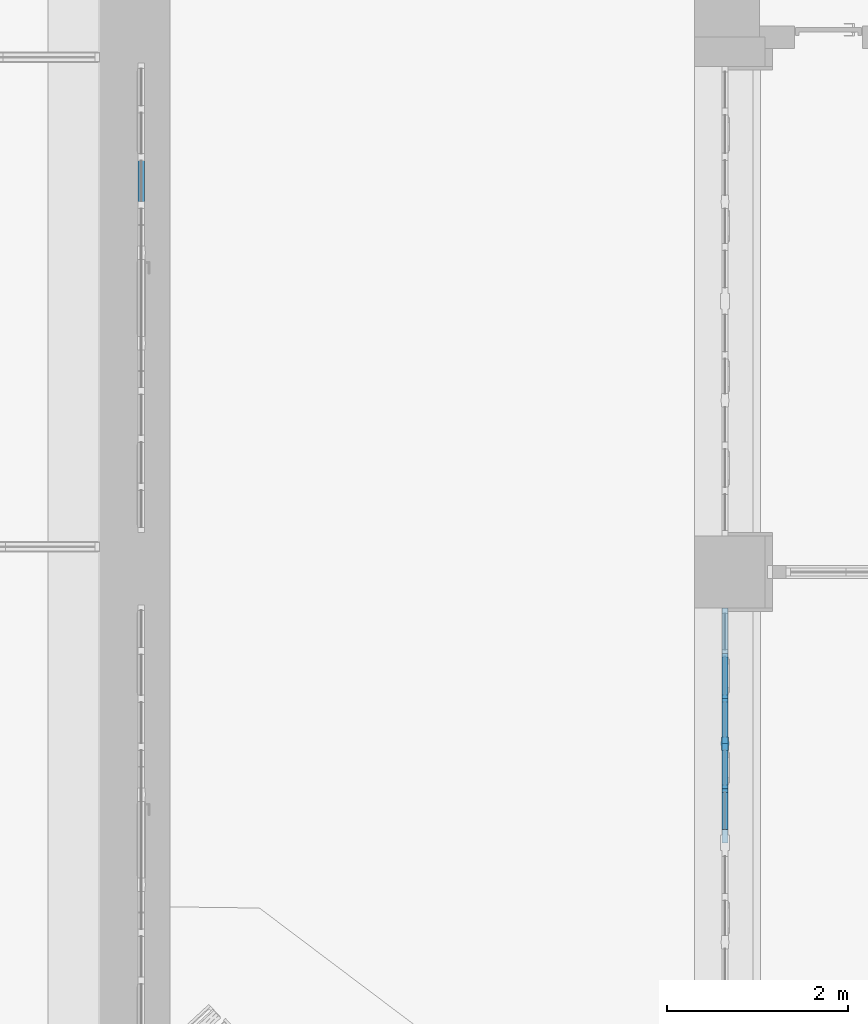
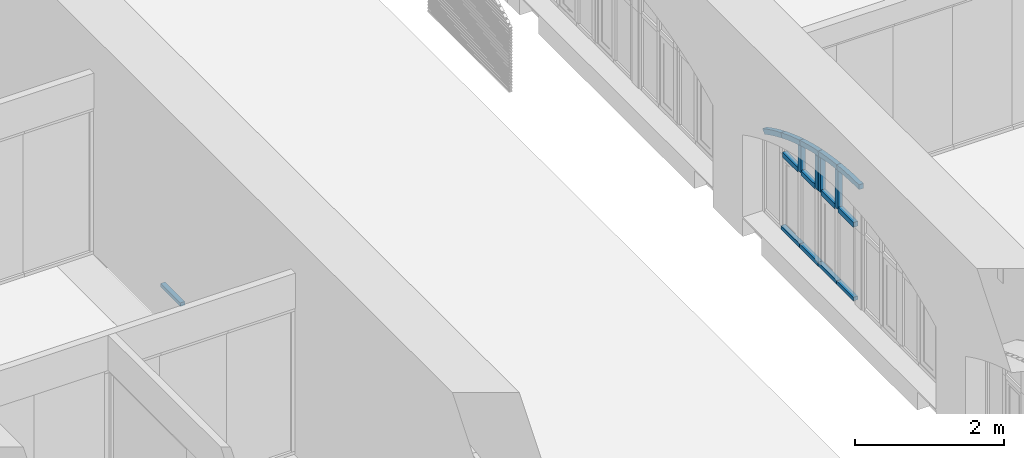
# One storey, part 28 of 88: 17 members, 2 elements without a shape of their own.
"""IFC2X3 building model written with IfcOpenShell, lengths in millimetres."""

from ifc_helpers import new_model, entity, si_unit, converted_unit, derived_unit, direction, frame, frame_2d, origin, place, context, subcontext, project, spatial, polyline, circle_curve, parameter, trimmed, segment, composite_curve, rectangle, outline, extrude, faceted_brep, source, transform, mapped, material, type_object, type_shapes, element, aggregate, save


model = new_model("IFC2X3")

# Units and contexts
model_context = context("Model", 3, precision=0.01, world=origin(), true_north=direction((6.123031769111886e-17, 1.0)))
body_context = subcontext(model_context, "Body", "Model", "MODEL_VIEW")
ifc_project = project(units=[si_unit("LENGTHUNIT", "METRE", prefix="MILLI"), si_unit("AREAUNIT", "SQUARE_METRE"), si_unit("VOLUMEUNIT", "CUBIC_METRE"), converted_unit("PLANEANGLEUNIT", "DEGREE", entity("IfcPlaneAngleMeasure", 0.017453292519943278), si_unit("PLANEANGLEUNIT", "RADIAN"), dimensions=[0, 0, 0, 0, 0, 0, 0]), si_unit("MASSUNIT", "GRAM", prefix="KILO"), derived_unit("MASSDENSITYUNIT", [(si_unit("MASSUNIT", "GRAM", prefix="KILO"), 1), (si_unit("LENGTHUNIT", "METRE"), -3)]), derived_unit("IONCONCENTRATIONUNIT", [(si_unit("MASSUNIT", "GRAM", prefix="KILO"), 1), (si_unit("LENGTHUNIT", "METRE"), -3)]), derived_unit("MOMENTOFINERTIAUNIT", [(si_unit("LENGTHUNIT", "METRE"), 4)]), si_unit("TIMEUNIT", "SECOND"), si_unit("FREQUENCYUNIT", "HERTZ"), si_unit("THERMODYNAMICTEMPERATUREUNIT", "DEGREE_CELSIUS"), derived_unit("THERMALTRANSMITTANCEUNIT", [(si_unit("MASSUNIT", "GRAM", prefix="KILO"), 1), (si_unit("THERMODYNAMICTEMPERATUREUNIT", "KELVIN"), -1), (si_unit("TIMEUNIT", "SECOND"), -3)]), derived_unit("THERMALCONDUCTANCEUNIT", [(si_unit("MASSUNIT", "GRAM", prefix="KILO"), 1), (si_unit("THERMODYNAMICTEMPERATUREUNIT", "KELVIN"), -1), (si_unit("TIMEUNIT", "SECOND"), -3), (si_unit("LENGTHUNIT", "METRE"), 1)]), derived_unit("VOLUMETRICFLOWRATEUNIT", [(si_unit("LENGTHUNIT", "METRE", prefix="DECI"), 3), (si_unit("TIMEUNIT", "SECOND"), -1)]), derived_unit("MASSFLOWRATEUNIT", [(si_unit("MASSUNIT", "GRAM", prefix="KILO"), 1), (si_unit("TIMEUNIT", "SECOND"), -1)]), derived_unit("ROTATIONALFREQUENCYUNIT", [(si_unit("TIMEUNIT", "SECOND"), -1)]), si_unit("ELECTRICCURRENTUNIT", "AMPERE"), si_unit("ELECTRICVOLTAGEUNIT", "VOLT"), si_unit("POWERUNIT", "WATT"), si_unit("FORCEUNIT", "NEWTON", prefix="KILO"), si_unit("ILLUMINANCEUNIT", "LUX"), si_unit("LUMINOUSFLUXUNIT", "LUMEN"), si_unit("LUMINOUSINTENSITYUNIT", "CANDELA"), si_unit("ENERGYUNIT", "JOULE"), derived_unit("USERDEFINED", [(si_unit("MASSUNIT", "GRAM", prefix="KILO"), -1), (si_unit("LENGTHUNIT", "METRE"), -2), (si_unit("TIMEUNIT", "SECOND"), 3), (si_unit("LUMINOUSFLUXUNIT", "LUMEN"), 1)]), derived_unit("USERDEFINED", [(si_unit("MASSUNIT", "GRAM", prefix="KILO"), 1), (si_unit("TIMEUNIT", "SECOND"), -3), (si_unit("LENGTHUNIT", "METRE"), 3), (si_unit("ELECTRICCURRENTUNIT", "AMPERE"), -2)]), derived_unit("SOUNDPOWERUNIT", [(si_unit("MASSUNIT", "GRAM", prefix="KILO"), 1), (si_unit("TIMEUNIT", "SECOND"), -3), (si_unit("LENGTHUNIT", "METRE"), 2)]), derived_unit("SOUNDPRESSUREUNIT", [(si_unit("MASSUNIT", "GRAM", prefix="KILO"), 1), (si_unit("LENGTHUNIT", "METRE"), -1), (si_unit("TIMEUNIT", "SECOND"), -2)]), derived_unit("LINEARVELOCITYUNIT", [(si_unit("LENGTHUNIT", "METRE"), 1), (si_unit("TIMEUNIT", "SECOND"), -1)]), si_unit("PRESSUREUNIT", "PASCAL"), derived_unit("USERDEFINED", [(si_unit("MASSUNIT", "GRAM", prefix="KILO"), 1), (si_unit("LENGTHUNIT", "METRE"), -2), (si_unit("TIMEUNIT", "SECOND"), -2)]), derived_unit("LINEARFORCEUNIT", [(si_unit("MASSUNIT", "GRAM", prefix="KILO"), 1), (si_unit("TIMEUNIT", "SECOND"), -2)]), derived_unit("PLANARFORCEUNIT", [(si_unit("MASSUNIT", "GRAM", prefix="KILO"), 1), (si_unit("LENGTHUNIT", "METRE"), -1), (si_unit("TIMEUNIT", "SECOND"), -2)]), derived_unit("SPECIFICHEATCAPACITYUNIT", [(si_unit("THERMODYNAMICTEMPERATUREUNIT", "KELVIN"), -1), (si_unit("LENGTHUNIT", "METRE"), 2), (si_unit("TIMEUNIT", "SECOND"), -2)]), derived_unit("HEATFLUXDENSITYUNIT", [(si_unit("MASSUNIT", "GRAM", prefix="KILO"), 1), (si_unit("TIMEUNIT", "SECOND"), -3)]), derived_unit("HEATINGVALUEUNIT", [(si_unit("LENGTHUNIT", "METRE"), 2), (si_unit("TIMEUNIT", "SECOND"), -2)]), derived_unit("VAPORPERMEABILITYUNIT", [(si_unit("LENGTHUNIT", "METRE"), -1), (si_unit("TIMEUNIT", "SECOND"), 1)]), derived_unit("DYNAMICVISCOSITYUNIT", [(si_unit("MASSUNIT", "GRAM", prefix="KILO"), 1), (si_unit("TIMEUNIT", "SECOND"), -1), (si_unit("LENGTHUNIT", "METRE"), -1)]), derived_unit("THERMALEXPANSIONCOEFFICIENTUNIT", [(si_unit("THERMODYNAMICTEMPERATUREUNIT", "KELVIN"), -1)]), derived_unit("MODULUSOFELASTICITYUNIT", [(si_unit("MASSUNIT", "GRAM", prefix="KILO"), 1), (si_unit("LENGTHUNIT", "METRE"), -1), (si_unit("TIMEUNIT", "SECOND"), -2)]), derived_unit("ISOTHERMALMOISTURECAPACITYUNIT", [(si_unit("MASSUNIT", "GRAM", prefix="KILO"), -1), (si_unit("LENGTHUNIT", "METRE"), 3)]), derived_unit("MOISTUREDIFFUSIVITYUNIT", [(si_unit("TIMEUNIT", "SECOND"), -1), (si_unit("LENGTHUNIT", "METRE"), 2)]), derived_unit("MASSPERLENGTHUNIT", [(si_unit("MASSUNIT", "GRAM", prefix="KILO"), 1), (si_unit("LENGTHUNIT", "METRE"), -1)]), derived_unit("THERMALRESISTANCEUNIT", [(si_unit("MASSUNIT", "GRAM", prefix="KILO"), -1), (si_unit("TIMEUNIT", "SECOND"), 3), (si_unit("THERMODYNAMICTEMPERATUREUNIT", "KELVIN"), 1)]), derived_unit("ACCELERATIONUNIT", [(si_unit("LENGTHUNIT", "METRE"), 1), (si_unit("TIMEUNIT", "SECOND"), -2)]), derived_unit("ANGULARVELOCITYUNIT", [(si_unit("TIMEUNIT", "SECOND"), -1), (si_unit("PLANEANGLEUNIT", "RADIAN"), 1)]), derived_unit("LINEARSTIFFNESSUNIT", [(si_unit("MASSUNIT", "GRAM", prefix="KILO"), 1), (si_unit("TIMEUNIT", "SECOND"), -2)]), derived_unit("WARPINGCONSTANTUNIT", [(si_unit("LENGTHUNIT", "METRE"), 6)]), derived_unit("LINEARMOMENTUNIT", [(si_unit("MASSUNIT", "GRAM", prefix="KILO"), 1), (si_unit("LENGTHUNIT", "METRE"), 1), (si_unit("TIMEUNIT", "SECOND"), -2)]), derived_unit("TORQUEUNIT", [(si_unit("MASSUNIT", "GRAM", prefix="KILO"), 1), (si_unit("LENGTHUNIT", "METRE"), 2), (si_unit("TIMEUNIT", "SECOND"), -2)])], contexts=[model_context])

# Site, building, storey
site_placement = place(None, origin())
site = spatial("IfcSite", under=ifc_project, at=site_placement, Name="Default", CompositionType="ELEMENT")
building_placement = place(site_placement, origin())
building = spatial("IfcBuilding", under=site, at=building_placement, Name="Eesti Rahvusraamatukogu hoone renoveerimise projekteerimistööd", CompositionType="ELEMENT")
storey_placement = place(building_placement, origin())
storey = spatial("IfcBuildingStorey", under=building, at=storey_placement, Name="1. korrus", CompositionType="ELEMENT", Elevation=0.0)

# Curtain wall, members
curtain_wall_type_1 = type_object("IfcCurtainWallType", Name="Curtain Wall:Ak-02", PredefinedType="NOTDEFINED")
curtain_wall_1_placement = place(storey_placement, origin())
curtain_wall_1 = element("IfcCurtainWall", 1, at=curtain_wall_1_placement, inside=storey, type_object=curtain_wall_type_1, Name="Curtain Wall:Ak-02", ObjectType="Curtain Wall:Ak-02")
ifc_material = material(Name="LUMION_dark steel window frames")
member_type_1 = type_object("IfcMemberType", Name="Rectangular Mullion:NEW 80x70mm", PredefinedType="MULLION", material=ifc_material)
shared_shape_1 = source(origin(), body_context, "Body", "SweptSolid", [
    extrude(outline(composite_curve([segment(trimmed(circle_curve(frame_2d((5127.857298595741, 1916.0902897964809), x_axis=(-0.9185017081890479, -0.39541701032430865)), 5520.7156800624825), [parameter(354.2613575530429)], [parameter(359.99999999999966)], True, "PARAMETER"), True, "CONTINUOUS"), segment(polyline([(57.07051603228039, -266.8945992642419), (130.55065268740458, -235.2612384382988)]), True, "CONTINUOUS"), segment(trimmed(circle_curve(frame_2d((5127.857298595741, 1916.0902897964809), x_axis=(-0.9185017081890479, -0.39541701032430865)), 5440.7156800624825), [parameter(354.52804849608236)], [parameter(359.99999999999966)], True, "PARAMETER"), False, "CONTINUOUS"), segment(polyline([(-51.82617782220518, 251.07791885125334), (-135.79499089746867, 251.0779188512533)]), True, "CONTINUOUS")], self_intersect=False)), frame((-53.11529804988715, -35.0, -267.709798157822), z_axis=(0.0, -1.0, 0.0), x_axis=(-0.918501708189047, 0.0, 0.3954170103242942)), (0.0, 0.0, -1.0), 69.99999999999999),
])
type_shapes(member_type_1, [shared_shape_1])
member_1_placement = place(curtain_wall_1_placement, frame((-36440.0, 17490.0, 3555.568744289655), z_axis=(0.0, -0.9248280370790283, 0.3803854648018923), x_axis=(0.0, 0.3803854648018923, 0.9248280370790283)))
member_1 = element("IfcMember", 2, at=member_1_placement, type_object=member_type_1, material=ifc_material, Name="Rectangular Mullion:NEW 80x70mm", ObjectType="Rectangular Mullion:NEW 80x70mm", context=body_context, shape_type="MappedRepresentation", body=[
    mapped(shared_shape_1, transform((0.0, 0.0, 0.0), scale=1.0)),
])
member_type_2 = type_object("IfcMemberType", Name="Rectangular Mullion:NEW 80x70mm", PredefinedType="MULLION", material=ifc_material)
shared_shape_2 = source(origin(), body_context, "Body", "SweptSolid", [
    extrude(outline(composite_curve([segment(polyline([(-52.664386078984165, -263.1530214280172), (27.33561392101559, -263.1530214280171)]), True, "CONTINUOUS"), segment(trimmed(circle_curve(frame_2d((5468.051293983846, -263.1530214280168), x_axis=(-0.9953785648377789, 0.09602870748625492)), 5440.715680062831), [parameter(3.5622212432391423e-13)], [parameter(5.510531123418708)], True, "PARAMETER"), False, "CONTINUOUS"), segment(polyline([(52.479528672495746, 259.31187312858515), (-27.150756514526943, 266.9941697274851)]), True, "CONTINUOUS"), segment(trimmed(circle_curve(frame_2d((5468.051293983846, -263.1530214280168), x_axis=(-0.9953785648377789, 0.09602870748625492)), 5520.715680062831), [parameter(3.5622212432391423e-13)], [parameter(5.510531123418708)], True, "PARAMETER"), True, "CONTINUOUS")], self_intersect=False)), frame((-52.66438607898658, -35.0, -263.1530214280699), z_axis=(0.0, 1.0, 0.0), x_axis=(-0.9953785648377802, 0.0, 0.09602870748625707)), (0.0, 0.0, 1.0), 69.99999999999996),
])
type_shapes(member_type_2, [shared_shape_2])
member_2_placement = place(curtain_wall_1_placement, frame((-36440.0, 16990.0, 3733.633310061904), z_axis=(0.0, -0.9570819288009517, 0.28981749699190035), x_axis=(0.0, 0.28981749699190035, 0.9570819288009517)))
member_2 = element("IfcMember", 3, at=member_2_placement, type_object=member_type_2, material=ifc_material, Name="Rectangular Mullion:NEW 80x70mm", ObjectType="Rectangular Mullion:NEW 80x70mm", context=body_context, shape_type="MappedRepresentation", body=[
    mapped(shared_shape_2, transform((0.0, 0.0, 0.0), scale=1.0)),
])
member_type_3 = type_object("IfcMemberType", Name="Rectangular Mullion:NEW 80x70mm", PredefinedType="MULLION", material=ifc_material)
shared_shape_3 = source(origin(), body_context, "Body", "SweptSolid", [
    extrude(outline(composite_curve([segment(polyline([(-51.955427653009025, -255.69780513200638), (28.04457234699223, -255.69780513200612)]), True, "CONTINUOUS"), segment(trimmed(circle_curve(frame_2d((5468.760252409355, -255.69780513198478), x_axis=(-0.9956372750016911, 0.09330818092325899)), 5440.715680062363), [parameter(3.5622212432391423e-13)], [parameter(5.353953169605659)], True, "PARAMETER"), False, "CONTINUOUS"), segment(polyline([(51.78091865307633, 251.96547789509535), (-27.870063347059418, 259.4301323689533)]), True, "CONTINUOUS"), segment(trimmed(circle_curve(frame_2d((5468.760252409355, -255.69780513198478), x_axis=(-0.9956372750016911, 0.09330818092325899)), 5520.715680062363), [parameter(3.5622212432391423e-13)], [parameter(5.353953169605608)], True, "PARAMETER"), True, "CONTINUOUS")], self_intersect=False)), frame((-51.95542765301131, -35.0, -255.69780513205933), z_axis=(0.0, 1.0, 0.0), x_axis=(-0.9956372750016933, 0.0, 0.09330818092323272)), (0.0, 0.0, 1.0), 70.00000000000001),
])
type_shapes(member_type_3, [shared_shape_3])
member_3_placement = place(curtain_wall_1_placement, frame((-36440.0, 16490.0, 3859.8747326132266), z_axis=(0.0, -0.9799487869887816, 0.19924952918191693), x_axis=(0.0, 0.19924952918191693, 0.9799487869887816)))
member_3 = element("IfcMember", 4, at=member_3_placement, type_object=member_type_3, material=ifc_material, Name="Rectangular Mullion:NEW 80x70mm", ObjectType="Rectangular Mullion:NEW 80x70mm", context=body_context, shape_type="MappedRepresentation", body=[
    mapped(shared_shape_3, transform((0.0, 0.0, 0.0), scale=1.0)),
])
member_type_4 = type_object("IfcMemberType", Name="Rectangular Mullion:NEW 80x70mm", PredefinedType="MULLION", material=ifc_material)
shared_shape_4 = source(origin(), body_context, "Body", "SweptSolid", [
    extrude(outline(composite_curve([segment(polyline([(-51.51245202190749, -250.9261639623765), (28.487547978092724, -250.92616396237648)]), True, "CONTINUOUS"), segment(trimmed(circle_curve(frame_2d((5469.203228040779, -250.92616396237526), x_axis=(-0.99579892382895, 0.0915669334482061)), 5440.715680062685), [parameter(3.5622212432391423e-13)], [parameter(5.2537580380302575)], True, "PARAMETER"), False, "CONTINUOUS"), segment(polyline([(51.344408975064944, 247.26348662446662), (-28.319504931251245, 254.58884130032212)]), True, "CONTINUOUS"), segment(trimmed(circle_curve(frame_2d((5469.203228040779, -250.92616396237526), x_axis=(-0.99579892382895, 0.0915669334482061)), 5520.715680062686), [parameter(3.5622212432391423e-13)], [parameter(5.2537580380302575)], True, "PARAMETER"), True, "CONTINUOUS")], self_intersect=False)), frame((-51.51245202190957, -35.0, -250.92616396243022), z_axis=(0.0, 1.0, 0.0), x_axis=(-0.995798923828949, 0.0, 0.09156693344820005)), (0.0, 0.0, 1.0), 70.00000000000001),
])
type_shapes(member_type_4, [shared_shape_4])
member_4_placement = place(curtain_wall_1_placement, frame((-36440.0, 15990.0, 3937.870459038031), z_axis=(0.0, -0.9940766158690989, 0.10868156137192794), x_axis=(0.0, 0.10868156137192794, 0.9940766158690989)))
member_4 = element("IfcMember", 5, at=member_4_placement, type_object=member_type_4, material=ifc_material, Name="Rectangular Mullion:NEW 80x70mm", ObjectType="Rectangular Mullion:NEW 80x70mm", context=body_context, shape_type="MappedRepresentation", body=[
    mapped(shared_shape_4, transform((0.0, 0.0, 0.0), scale=1.0)),
])
member_type_5 = type_object("IfcMemberType", Name="Rectangular Mullion:NEW 80x70mm", PredefinedType="MULLION", material=ifc_material)
shared_shape_5 = source(origin(), body_context, "Body", "SweptSolid", [
    extrude(outline(composite_curve([segment(polyline([(-56.232192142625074, -297.82636877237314), (23.767807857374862, -297.82636877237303)]), True, "CONTINUOUS"), segment(trimmed(circle_curve(frame_2d((5464.483487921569, -297.8263687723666), x_axis=(-0.9940766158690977, 0.10868156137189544)), 5440.715680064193), [parameter(3.5622212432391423e-13)], [parameter(6.239318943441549)], True, "PARAMETER"), False, "CONTINUOUS"), segment(polyline([(55.99525677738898, 293.47910631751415), (-23.53087249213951, 302.1736312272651)]), True, "CONTINUOUS"), segment(trimmed(circle_curve(frame_2d((5464.483487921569, -297.8263687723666), x_axis=(-0.9940766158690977, 0.10868156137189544)), 5520.715680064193), [parameter(3.5622212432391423e-13)], [parameter(6.239318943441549)], True, "PARAMETER"), True, "CONTINUOUS")], self_intersect=False)), frame((-56.232192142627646, -35.0, -297.8263687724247), z_axis=(0.0, 1.0, 0.0), x_axis=(-0.9940766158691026, 0.0, 0.1086815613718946)), (0.0, 0.0, 1.0), 69.99999999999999),
])
type_shapes(member_type_5, [shared_shape_5])
member_5_placement = place(curtain_wall_1_placement, frame((-36440.0, 15390.0, 3970.57177868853), z_axis=(0.0, -1.0, 0.0), x_axis=(0.0, 0.0, 1.0)))
member_5 = element("IfcMember", 6, at=member_5_placement, type_object=member_type_5, material=ifc_material, Name="Rectangular Mullion:NEW 80x70mm", ObjectType="Rectangular Mullion:NEW 80x70mm", context=body_context, shape_type="MappedRepresentation", body=[
    mapped(shared_shape_5, transform((0.0, 0.0, 0.0), scale=1.0)),
])
member_type_6 = type_object("IfcMemberType", Name="Rectangular Mullion:NEW 80x70mm", PredefinedType="MULLION", material=ifc_material)
shared_shape_6 = source(origin(), body_context, "Body", "SweptSolid", [
    extrude(outline(composite_curve([segment(polyline([(-259.34177632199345, -35.36292004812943), (182.78706183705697, -35.36292004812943)]), True, "CONTINUOUS"), segment(trimmed(circle_curve(frame_2d((-5029.485677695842, -1595.3629200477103), x_axis=(0.9799487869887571, 0.19924952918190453)), 5440.715680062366), [parameter(5.169029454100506)], [parameter(5.353953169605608)], True, "PARAMETER"), True, "CONTINUOUS"), segment(trimmed(circle_curve(frame_2d((-5029.48567769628, -1595.362920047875), x_axis=(0.9570819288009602, 0.2898174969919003)), 5440.715680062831), [parameter(0.0)], [parameter(0.6965383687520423)], True, "PARAMETER"), True, "CONTINUOUS"), segment(polyline([(158.17151137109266, 44.63707995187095), (-259.34177632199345, 44.63707995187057)]), True, "CONTINUOUS"), segment(polyline([(-259.34177632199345, 44.63707995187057), (-259.34177632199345, -35.36292004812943)]), True, "CONTINUOUS")], self_intersect=False)), frame((4.637079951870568, -35.0, -259.34177632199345), z_axis=(0.0, 1.0, 0.0), x_axis=(0.0, 0.0, -1.0)), (0.0, 0.0, 1.0), 70.00000000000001),
])
type_shapes(member_type_6, [shared_shape_6])
member_6_placement = place(curtain_wall_1_placement, frame((-36440.0, 16990.0, 3220.0), z_axis=(0.0, 0.0, -1.0), x_axis=(0.0, -1.0, 0.0)))
member_6 = element("IfcMember", 7, at=member_6_placement, type_object=member_type_6, material=ifc_material, Name="Rectangular Mullion:NEW 80x70mm", ObjectType="Rectangular Mullion:NEW 80x70mm", context=body_context, shape_type="MappedRepresentation", body=[
    mapped(shared_shape_6, transform((0.0, 0.0, 0.0), scale=1.0)),
])
member_type_7 = type_object("IfcMemberType", Name="Rectangular Mullion:NEW 150x90mm", PredefinedType="MULLION", material=ifc_material)
shared_shape_7 = source(origin(), body_context, "Body", "Brep", [
    faceted_brep([(-20.0, -40.0, 0.0), (-20.0, -45.0, 0.0), (20.0, -45.0, 0.0), (20.0, -40.0, 0.0), (75.0, -40.0, 0.0), (75.0, 40.0, 0.0), (20.0, 40.0, 0.0), (20.0, 45.0, 0.0), (-20.0, 45.0, 0.0), (-20.0, 40.0, 0.0), (-75.0, 40.0, 0.0), (-75.0, -40.0, 0.0), (-20.0, 40.0, -554.0449674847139), (-47.51534075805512, 40.0, -548.1824945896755), (-75.0, 40.0, -542.1778237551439), (75.0, 40.0, -573.1474168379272), (47.48603249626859, 40.0, -567.7959127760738), (20.0, 40.0, -562.3027332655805), (-75.0, -40.0, -542.1778237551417), (-47.515340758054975, -40.0, -548.1824945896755), (-20.0, -40.0, -554.0449674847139), (20.0, -40.0, -562.30273326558), (47.48603249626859, -40.0, -567.7959127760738), (75.0, -40.0, -573.1474168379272), (-20.0, -45.0, -554.0449674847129), (-20.0, 45.0, -554.0449674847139), (-2.036281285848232, -45.0, -557.7922042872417), (15.939962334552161, -45.0, -561.4788296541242), (17.969902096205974, -45.0, -561.8911677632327), (20.0, -45.0, -562.3027332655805), (20.0, 45.0, -562.30273326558), (17.969902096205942, 45.0, -561.8911677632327), (15.939962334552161, 45.0, -561.4788296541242), (-2.036281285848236, 45.0, -557.7922042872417), (15.939962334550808, 33.74999999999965, -561.4788296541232), (15.939962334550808, 22.499999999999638, -561.4788296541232), (15.939962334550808, 0.0, -561.4788296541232), (15.939962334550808, -22.500000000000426, -561.4788296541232), (15.939962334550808, -33.75000000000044, -561.4788296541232)], [[[0, 1, 2, 3, 4, 5, 6, 7, 8, 9, 10, 11]], [[10, 9, 12, 13, 14]], [[6, 5, 15, 16, 17]], [[11, 10, 14, 18]], [[0, 11, 18, 19, 20]], [[4, 3, 21, 22, 23]], [[1, 0, 20, 24]], [[9, 8, 25, 12]], [[1, 24, 26, 27, 28, 29, 2]], [[3, 2, 29, 21]], [[7, 6, 17, 30]], [[5, 4, 23, 15]], [[7, 30, 31, 32, 33, 25, 8]], [[26, 33, 32, 34, 35, 36, 37, 38, 27]], [[20, 12, 25, 33, 26, 24]], [[20, 19, 13, 12]], [[19, 18, 14, 13]], [[15, 23, 22, 16]], [[17, 35, 34, 32]], [[21, 27, 38, 37]], [[16, 35, 17]], [[21, 37, 22]], [[36, 35, 16, 22, 37]], [[27, 21, 28]], [[31, 30, 17]], [[28, 21, 29]], [[17, 32, 31]]]),
])
type_shapes(member_type_7, [shared_shape_7])
member_7_placement = place(curtain_wall_1_placement, frame((-36440.0, 16490.0, 3220.0), z_axis=(0.0, 0.0, -1.0), x_axis=(0.0, -1.0, 0.0)))
member_7 = element("IfcMember", 8, at=member_7_placement, type_object=member_type_7, material=ifc_material, Name="Rectangular Mullion:NEW 150x90mm", ObjectType="Rectangular Mullion:NEW 150x90mm", context=body_context, shape_type="MappedRepresentation", body=[
    mapped(shared_shape_7, transform((0.0, 0.0, 0.0), scale=1.0)),
])
member_type_8 = type_object("IfcMemberType", Name="Rectangular Mullion:NEW 80x70mm", PredefinedType="MULLION", material=ifc_material)
shared_shape_8 = source(origin(), body_context, "Body", "SweptSolid", [
    extrude(outline(composite_curve([segment(polyline([(-382.563636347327, -38.261095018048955), (259.11166761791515, -38.261095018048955)]), True, "CONTINUOUS"), segment(trimmed(circle_curve(frame_2d((-5152.707537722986, -598.2610950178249), x_axis=(1.0, 0.0)), 5440.715680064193), [parameter(5.907781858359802)], [parameter(6.239318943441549)], True, "PARAMETER"), True, "CONTINUOUS"), segment(trimmed(circle_curve(frame_2d((-5152.707537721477, -598.2610950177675), x_axis=(0.994076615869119, 0.10868156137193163)), 5440.715680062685), [parameter(0.0)], [parameter(0.5161152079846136)], True, "PARAMETER"), True, "CONTINUOUS"), segment(polyline([(250.23491165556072, 41.73890498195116), (-382.563636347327, 41.738904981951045)]), True, "CONTINUOUS"), segment(polyline([(-382.563636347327, 41.738904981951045), (-382.563636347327, -38.261095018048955)]), True, "CONTINUOUS")], self_intersect=False)), frame((1.7389049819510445, -35.0, -382.563636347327), z_axis=(0.0, 1.0, 0.0), x_axis=(0.0, 0.0, -1.0)), (0.0, 0.0, 1.0), 69.99999999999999),
])
type_shapes(member_type_8, [shared_shape_8])
member_8_placement = place(curtain_wall_1_placement, frame((-36440.0, 15990.0, 3220.0), z_axis=(0.0, 0.0, -1.0), x_axis=(0.0, -1.0, 0.0)))
member_8 = element("IfcMember", 9, at=member_8_placement, type_object=member_type_8, material=ifc_material, Name="Rectangular Mullion:NEW 80x70mm", ObjectType="Rectangular Mullion:NEW 80x70mm", context=body_context, shape_type="MappedRepresentation", body=[
    mapped(shared_shape_8, transform((0.0, 0.0, 0.0), scale=1.0)),
])
member_type_9 = type_object("IfcMemberType", Name="Rectangular Mullion:NEW 80x70mm", PredefinedType="MULLION", material=ifc_material)
shared_shape_9 = source(origin(), body_context, "Body", "SweptSolid", [
    extrude(rectangle(XDim=80.0, YDim=70.0, at=frame_2d((0.0, -3.552713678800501e-15), x_axis=(1.0, 0.0))), frame((0.0, 0.0, -420.0), z_axis=(0.0, 0.0, 1.0), x_axis=(-1.0, 0.0, 0.0)), (0.0, 0.0, 1.0), 419.999999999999),
])
type_shapes(member_type_9, [shared_shape_9])
member_9_placement = place(curtain_wall_1_placement, frame((-36440.0, 17030.0, 3220.0), z_axis=(0.0, -1.0, 0.0), x_axis=(0.0, 0.0, 1.0)))
member_9 = element("IfcMember", 10, at=member_9_placement, type_object=member_type_9, material=ifc_material, Name="Rectangular Mullion:NEW 80x70mm", ObjectType="Rectangular Mullion:NEW 80x70mm", context=body_context, shape_type="MappedRepresentation", body=[
    mapped(shared_shape_9, transform((0.0, 0.0, 0.0), scale=1.0)),
])
member_type_10 = type_object("IfcMemberType", Name="Rectangular Mullion:NEW 80x70mm", PredefinedType="MULLION", material=ifc_material)
shared_shape_10 = source(origin(), body_context, "Body", "SweptSolid", [
    extrude(rectangle(XDim=80.0, YDim=70.0, at=frame_2d((0.0, -3.552713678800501e-15), x_axis=(1.0, 0.0))), frame((0.0, 0.0, -385.0), z_axis=(0.0, 0.0, 1.0), x_axis=(-1.0, 0.0, 0.0)), (0.0, 0.0, 1.0), 384.99999999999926),
])
type_shapes(member_type_10, [shared_shape_10])
member_10_placement = place(curtain_wall_1_placement, frame((-36440.0, 16565.0, 3220.0), z_axis=(0.0, -1.0, 0.0), x_axis=(0.0, 0.0, 1.0)))
member_10 = element("IfcMember", 11, at=member_10_placement, type_object=member_type_10, material=ifc_material, Name="Rectangular Mullion:NEW 80x70mm", ObjectType="Rectangular Mullion:NEW 80x70mm", context=body_context, shape_type="MappedRepresentation", body=[
    mapped(shared_shape_10, transform((0.0, 0.0, 0.0), scale=1.0)),
])
member_11_placement = place(curtain_wall_1_placement, frame((-36440.0, 16030.0, 3220.0), z_axis=(0.0, -1.0, 0.0), x_axis=(0.0, 0.0, 1.0)))
member_11 = element("IfcMember", 12, at=member_11_placement, type_object=member_type_10, material=ifc_material, Name="Rectangular Mullion:NEW 80x70mm", ObjectType="Rectangular Mullion:NEW 80x70mm", context=body_context, shape_type="MappedRepresentation", body=[
    mapped(shared_shape_10, transform((0.0, 0.0, 0.0), scale=1.0)),
])
member_type_11 = type_object("IfcMemberType", Name="Rectangular Mullion:NEW 80x70mm", PredefinedType="MULLION", material=ifc_material)
shared_shape_11 = source(origin(), body_context, "Body", "SweptSolid", [
    extrude(rectangle(XDim=80.0, YDim=70.0, at=frame_2d((0.0, -3.552713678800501e-15), x_axis=(1.0, 0.0))), frame((0.0, 0.0, -410.0), z_axis=(0.0, 0.0, 1.0), x_axis=(-1.0, 0.0, 0.0)), (0.0, 0.0, 1.0), 409.9999999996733),
])
type_shapes(member_type_11, [shared_shape_11])
member_12_placement = place(curtain_wall_1_placement, frame((-36440.0, 15540.0, 3220.0), z_axis=(0.0, -1.0, 0.0), x_axis=(0.0, 0.0, 1.0)))
member_12 = element("IfcMember", 13, at=member_12_placement, type_object=member_type_11, material=ifc_material, Name="Rectangular Mullion:NEW 80x70mm", ObjectType="Rectangular Mullion:NEW 80x70mm", context=body_context, shape_type="MappedRepresentation", body=[
    mapped(shared_shape_11, transform((0.0, 0.0, 0.0), scale=1.0)),
])
member_type_12 = type_object("IfcMemberType", Name="Rectangular Mullion:NEW 60x70mm", PredefinedType="MULLION", material=ifc_material)
shared_shape_12 = source(origin(), body_context, "Body", "SweptSolid", [
    extrude(rectangle(XDim=60.0, YDim=70.0, at=frame_2d((0.0, 3.552713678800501e-15), x_axis=(1.0, 0.0))), frame((-30.0, 0.0, -500.0), z_axis=(0.0, 0.0, 1.0), x_axis=(-1.0, 0.0, 0.0)), (0.0, 0.0, 1.0), 499.999999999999),
])
type_shapes(member_type_12, [shared_shape_12])
member_13_placement = place(curtain_wall_1_placement, frame((-36440.0, 17490.0, 1970.0), z_axis=(0.0, 1.0, 0.0), x_axis=(0.0, 0.0, -1.0)))
member_13 = element("IfcMember", 14, at=member_13_placement, type_object=member_type_12, material=ifc_material, Name="Rectangular Mullion:NEW 60x70mm", ObjectType="Rectangular Mullion:NEW 60x70mm", context=body_context, shape_type="MappedRepresentation", body=[
    mapped(shared_shape_12, transform((0.0, 0.0, 0.0), scale=1.0)),
])
member_14_placement = place(curtain_wall_1_placement, frame((-36440.0, 16990.0, 1970.0), z_axis=(0.0, 1.0, 0.0), x_axis=(0.0, 0.0, -1.0)))
member_14 = element("IfcMember", 15, at=member_14_placement, type_object=member_type_12, material=ifc_material, Name="Rectangular Mullion:NEW 60x70mm", ObjectType="Rectangular Mullion:NEW 60x70mm", context=body_context, shape_type="MappedRepresentation", body=[
    mapped(shared_shape_12, transform((0.0, 0.0, 0.0), scale=1.0)),
])
member_15_placement = place(curtain_wall_1_placement, frame((-36440.0, 16490.0, 1970.0), z_axis=(0.0, 1.0, 0.0), x_axis=(0.0, 0.0, -1.0)))
member_15 = element("IfcMember", 16, at=member_15_placement, type_object=member_type_12, material=ifc_material, Name="Rectangular Mullion:NEW 60x70mm", ObjectType="Rectangular Mullion:NEW 60x70mm", context=body_context, shape_type="MappedRepresentation", body=[
    mapped(shared_shape_12, transform((0.0, 0.0, 0.0), scale=1.0)),
])
member_type_13 = type_object("IfcMemberType", Name="Rectangular Mullion:NEW 60x70mm", PredefinedType="MULLION", material=ifc_material)
shared_shape_13 = source(origin(), body_context, "Body", "SweptSolid", [
    extrude(rectangle(XDim=60.0, YDim=70.0, at=frame_2d((0.0, 3.552713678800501e-15), x_axis=(1.0, 0.0))), frame((-30.0, 0.0, -450.0), z_axis=(0.0, 0.0, 1.0), x_axis=(-1.0, 0.0, 0.0)), (0.0, 0.0, 1.0), 449.99999999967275),
])
type_shapes(member_type_13, [shared_shape_13])
member_16_placement = place(curtain_wall_1_placement, frame((-36440.0, 15990.0, 1970.0), z_axis=(0.0, 1.0, 0.0), x_axis=(0.0, 0.0, -1.0)))
member_16 = element("IfcMember", 17, at=member_16_placement, type_object=member_type_13, material=ifc_material, Name="Rectangular Mullion:NEW 60x70mm", ObjectType="Rectangular Mullion:NEW 60x70mm", context=body_context, shape_type="MappedRepresentation", body=[
    mapped(shared_shape_13, transform((0.0, 0.0, 0.0), scale=1.0)),
])
aggregate(curtain_wall_1, [member_1, member_2, member_3, member_4, member_5, member_6, member_7, member_8, member_9, member_10, member_11, member_12, member_13, member_14, member_15, member_16])

# Curtain wall, member
curtain_wall_type_2 = type_object("IfcCurtainWallType", Name="Curtain Wall:Ak-05", PredefinedType="NOTDEFINED")
curtain_wall_2_placement = place(storey_placement, origin())
curtain_wall_2 = element("IfcCurtainWall", 18, at=curtain_wall_2_placement, inside=storey, type_object=curtain_wall_type_2, Name="Curtain Wall:Ak-05", ObjectType="Curtain Wall:Ak-05")
member_type_14 = type_object("IfcMemberType", Name="Rectangular Mullion:NEW 60x70mm", PredefinedType="MULLION", material=ifc_material)
shared_shape_14 = source(origin(), body_context, "Body", "SweptSolid", [
    extrude(rectangle(XDim=60.0, YDim=70.0, at=frame_2d((0.0, 3.552713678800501e-15), x_axis=(1.0, 0.0))), frame((-30.0, 0.0, -530.0), z_axis=(0.0, 0.0, 1.0), x_axis=(-1.0, 0.0, 0.0)), (0.0, 0.0, 1.0), 530.0000000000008),
])
type_shapes(member_type_14, [shared_shape_14])
member_17_placement = place(curtain_wall_2_placement, frame((-42905.0, 22985.0, -50.0), z_axis=(0.0, 1.0, 0.0), x_axis=(0.0, 0.0, -1.0)))
member_17 = element("IfcMember", 19, at=member_17_placement, type_object=member_type_14, material=ifc_material, Name="Rectangular Mullion:NEW 60x70mm", ObjectType="Rectangular Mullion:NEW 60x70mm", context=body_context, shape_type="MappedRepresentation", body=[
    mapped(shared_shape_14, transform((0.0, 0.0, 0.0), scale=1.0)),
])
aggregate(curtain_wall_2, [member_17])

save(model, "model.ifc")
